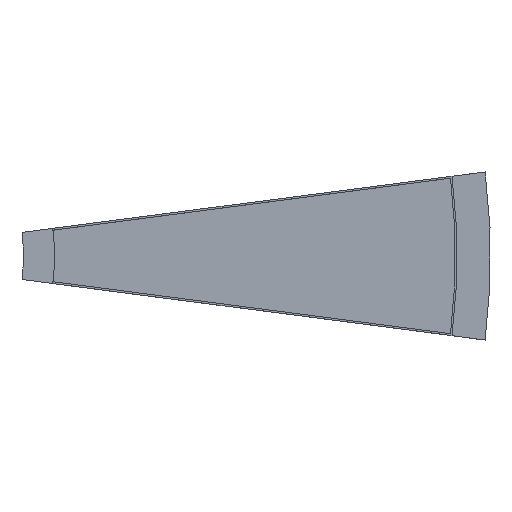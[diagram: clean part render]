
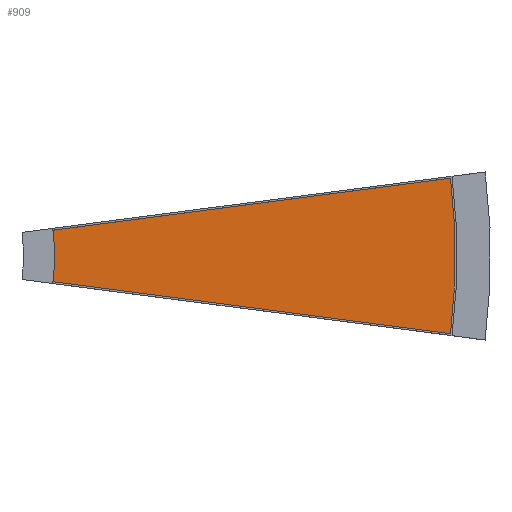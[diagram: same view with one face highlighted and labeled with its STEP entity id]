
A CAD part, top view. The second image highlights one B-rep face of the part: STEP entity #909.
In plain terms, the highlighted planar face has unit normal (0, 0, 1).
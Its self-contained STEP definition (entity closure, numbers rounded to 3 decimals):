
#57 = VERTEX_POINT('',#58);
#58 = CARTESIAN_POINT('',(359.939,-47.038,-50.));
#534 = VERTEX_POINT('',#535);
#535 = CARTESIAN_POINT('',(359.939,47.038,-50.));
#649 = CYLINDRICAL_SURFACE('',#650,363.);
#650 = AXIS2_PLACEMENT_3D('',#651,#652,#653);
#651 = CARTESIAN_POINT('',(0.,0.,-62.));
#652 = DIRECTION('',(-0.,0.,-1.));
#653 = DIRECTION('',(0.992,-0.13,-0.));
#852 = EDGE_CURVE('',#534,#57,#853,.T.);
#853 = SURFACE_CURVE('',#854,(#859,#866),.PCURVE_S1.);
#854 = CIRCLE('',#855,363.);
#855 = AXIS2_PLACEMENT_3D('',#856,#857,#858);
#856 = CARTESIAN_POINT('',(0.,0.,-50.));
#857 = DIRECTION('',(-0.,0.,-1.));
#858 = DIRECTION('',(0.992,-0.13,-0.));
#859 = PCURVE('',#649,#860);
#860 = DEFINITIONAL_REPRESENTATION('',(#861),#865);
#861 = LINE('',#862,#863);
#862 = CARTESIAN_POINT('',(-6.283,-12.));
#863 = VECTOR('',#864,1.);
#864 = DIRECTION('',(1.,-0.));
#865 = ( GEOMETRIC_REPRESENTATION_CONTEXT(2) 
PARAMETRIC_REPRESENTATION_CONTEXT() REPRESENTATION_CONTEXT('2D SPACE',''
  ) );
#866 = PCURVE('',#867,#872);
#867 = PLANE('',#868);
#868 = AXIS2_PLACEMENT_3D('',#869,#870,#871);
#869 = CARTESIAN_POINT('',(733.432,0.,-50.));
#870 = DIRECTION('',(0.,0.,1.));
#871 = DIRECTION('',(1.,0.,-0.));
#872 = DEFINITIONAL_REPRESENTATION('',(#873),#881);
#873 = ( BOUNDED_CURVE() B_SPLINE_CURVE(2,(#874,#875,#876,#877,#878,#879
,#880),.UNSPECIFIED.,.T.,.F.) B_SPLINE_CURVE_WITH_KNOTS((1,2,2,2,2,1),(
    -2.094,0.,2.094,4.189,6.283,
8.378),.UNSPECIFIED.) CURVE() GEOMETRIC_REPRESENTATION_ITEM() 
RATIONAL_B_SPLINE_CURVE((1.,0.5,1.,0.5,1.,0.5,1.)) REPRESENTATION_ITEM(
  '') );
#874 = CARTESIAN_POINT('',(-373.492,-47.038));
#875 = CARTESIAN_POINT('',(-454.965,-670.472));
#876 = CARTESIAN_POINT('',(-954.138,-288.198));
#877 = CARTESIAN_POINT('',(-1453.311,94.076));
#878 = CARTESIAN_POINT('',(-872.665,335.236));
#879 = CARTESIAN_POINT('',(-292.02,576.395));
#880 = CARTESIAN_POINT('',(-373.492,-47.038));
#881 = ( GEOMETRIC_REPRESENTATION_CONTEXT(2) 
PARAMETRIC_REPRESENTATION_CONTEXT() REPRESENTATION_CONTEXT('2D SPACE',''
  ) );
#897 = PLANE('',#898);
#898 = AXIS2_PLACEMENT_3D('',#899,#900,#901);
#899 = CARTESIAN_POINT('',(359.939,-47.038,-62.));
#900 = DIRECTION('',(0.992,-0.13,0.));
#901 = DIRECTION('',(0.,0.,1.));
#909 = ADVANCED_FACE('',(#910),#867,.T.);
#910 = FACE_BOUND('',#911,.T.);
#911 = EDGE_LOOP('',(#912,#940,#964,#965,#986,#1012));
#912 = ORIENTED_EDGE('',*,*,#913,.T.);
#913 = EDGE_CURVE('',#914,#916,#918,.T.);
#914 = VERTEX_POINT('',#915);
#915 = CARTESIAN_POINT('',(1038.557,132.697,-50.));
#916 = VERTEX_POINT('',#917);
#917 = CARTESIAN_POINT('',(360.328,44.064,-50.));
#918 = SURFACE_CURVE('',#919,(#923,#929),.PCURVE_S1.);
#919 = LINE('',#920,#921);
#920 = CARTESIAN_POINT('',(540.917,67.663,-50.));
#921 = VECTOR('',#922,1.);
#922 = DIRECTION('',(-0.992,-0.13,0.));
#923 = PCURVE('',#867,#924);
#924 = DEFINITIONAL_REPRESENTATION('',(#925),#928);
#925 = B_SPLINE_CURVE_WITH_KNOTS('',1,(#926,#927),.UNSPECIFIED.,.F.,.F.,
  (2,2),(-501.876,182.124),.PIECEWISE_BEZIER_KNOTS.);
#926 = CARTESIAN_POINT('',(305.129,132.698));
#927 = CARTESIAN_POINT('',(-373.104,44.064));
#928 = ( GEOMETRIC_REPRESENTATION_CONTEXT(2) 
PARAMETRIC_REPRESENTATION_CONTEXT() REPRESENTATION_CONTEXT('2D SPACE',''
  ) );
#929 = PCURVE('',#930,#935);
#930 = PLANE('',#931);
#931 = AXIS2_PLACEMENT_3D('',#932,#933,#934);
#932 = CARTESIAN_POINT('',(360.328,44.064,-62.));
#933 = DIRECTION('',(-0.13,0.992,0.));
#934 = DIRECTION('',(0.,0.,1.));
#935 = DEFINITIONAL_REPRESENTATION('',(#936),#939);
#936 = B_SPLINE_CURVE_WITH_KNOTS('',1,(#937,#938),.UNSPECIFIED.,.F.,.F.,
  (2,2),(-501.876,182.124),.PIECEWISE_BEZIER_KNOTS.);
#937 = CARTESIAN_POINT('',(12.,684.));
#938 = CARTESIAN_POINT('',(12.,0.));
#939 = ( GEOMETRIC_REPRESENTATION_CONTEXT(2) 
PARAMETRIC_REPRESENTATION_CONTEXT() REPRESENTATION_CONTEXT('2D SPACE',''
  ) );
#940 = ORIENTED_EDGE('',*,*,#941,.T.);
#941 = EDGE_CURVE('',#916,#534,#942,.T.);
#942 = SURFACE_CURVE('',#943,(#947,#953),.PCURVE_S1.);
#943 = LINE('',#944,#945);
#944 = CARTESIAN_POINT('',(366.292,-1.568,-50.));
#945 = VECTOR('',#946,1.);
#946 = DIRECTION('',(-0.13,0.992,0.));
#947 = PCURVE('',#867,#948);
#948 = DEFINITIONAL_REPRESENTATION('',(#949),#952);
#949 = B_SPLINE_CURVE_WITH_KNOTS('',1,(#950,#951),.UNSPECIFIED.,.F.,.F.,
  (2,2),(46.02,49.02),.PIECEWISE_BEZIER_KNOTS.);
#950 = CARTESIAN_POINT('',(-373.104,44.064));
#951 = CARTESIAN_POINT('',(-373.492,47.038));
#952 = ( GEOMETRIC_REPRESENTATION_CONTEXT(2) 
PARAMETRIC_REPRESENTATION_CONTEXT() REPRESENTATION_CONTEXT('2D SPACE',''
  ) );
#953 = PCURVE('',#954,#959);
#954 = PLANE('',#955);
#955 = AXIS2_PLACEMENT_3D('',#956,#957,#958);
#956 = CARTESIAN_POINT('',(360.328,44.064,-62.));
#957 = DIRECTION('',(0.992,0.13,0.));
#958 = DIRECTION('',(0.,0.,1.));
#959 = DEFINITIONAL_REPRESENTATION('',(#960),#963);
#960 = B_SPLINE_CURVE_WITH_KNOTS('',1,(#961,#962),.UNSPECIFIED.,.F.,.F.,
  (2,2),(46.02,49.02),.PIECEWISE_BEZIER_KNOTS.);
#961 = CARTESIAN_POINT('',(12.,0.));
#962 = CARTESIAN_POINT('',(12.,-3.));
#963 = ( GEOMETRIC_REPRESENTATION_CONTEXT(2) 
PARAMETRIC_REPRESENTATION_CONTEXT() REPRESENTATION_CONTEXT('2D SPACE',''
  ) );
#964 = ORIENTED_EDGE('',*,*,#852,.T.);
#965 = ORIENTED_EDGE('',*,*,#966,.T.);
#966 = EDGE_CURVE('',#57,#967,#969,.T.);
#967 = VERTEX_POINT('',#968);
#968 = CARTESIAN_POINT('',(360.328,-44.064,-50.));
#969 = SURFACE_CURVE('',#970,(#974,#980),.PCURVE_S1.);
#970 = LINE('',#971,#972);
#971 = CARTESIAN_POINT('',(366.097,0.081,-50.));
#972 = VECTOR('',#973,1.);
#973 = DIRECTION('',(0.13,0.992,-0.));
#974 = PCURVE('',#867,#975);
#975 = DEFINITIONAL_REPRESENTATION('',(#976),#979);
#976 = B_SPLINE_CURVE_WITH_KNOTS('',1,(#977,#978),.UNSPECIFIED.,.F.,.F.,
  (2,2),(-47.52,-44.52),.PIECEWISE_BEZIER_KNOTS.);
#977 = CARTESIAN_POINT('',(-373.492,-47.038));
#978 = CARTESIAN_POINT('',(-373.104,-44.064));
#979 = ( GEOMETRIC_REPRESENTATION_CONTEXT(2) 
PARAMETRIC_REPRESENTATION_CONTEXT() REPRESENTATION_CONTEXT('2D SPACE',''
  ) );
#980 = PCURVE('',#897,#981);
#981 = DEFINITIONAL_REPRESENTATION('',(#982),#985);
#982 = B_SPLINE_CURVE_WITH_KNOTS('',1,(#983,#984),.UNSPECIFIED.,.F.,.F.,
  (2,2),(-47.52,-44.52),.PIECEWISE_BEZIER_KNOTS.);
#983 = CARTESIAN_POINT('',(12.,0.));
#984 = CARTESIAN_POINT('',(12.,-3.));
#985 = ( GEOMETRIC_REPRESENTATION_CONTEXT(2) 
PARAMETRIC_REPRESENTATION_CONTEXT() REPRESENTATION_CONTEXT('2D SPACE',''
  ) );
#986 = ORIENTED_EDGE('',*,*,#987,.F.);
#987 = EDGE_CURVE('',#988,#967,#990,.T.);
#988 = VERTEX_POINT('',#989);
#989 = CARTESIAN_POINT('',(1038.557,-132.697,-50.));
#990 = SURFACE_CURVE('',#991,(#995,#1001),.PCURVE_S1.);
#991 = LINE('',#992,#993);
#992 = CARTESIAN_POINT('',(540.917,-67.663,-50.));
#993 = VECTOR('',#994,1.);
#994 = DIRECTION('',(-0.992,0.13,0.));
#995 = PCURVE('',#867,#996);
#996 = DEFINITIONAL_REPRESENTATION('',(#997),#1000);
#997 = B_SPLINE_CURVE_WITH_KNOTS('',1,(#998,#999),.UNSPECIFIED.,.F.,.F.,
  (2,2),(-501.876,182.124),.PIECEWISE_BEZIER_KNOTS.);
#998 = CARTESIAN_POINT('',(305.129,-132.698));
#999 = CARTESIAN_POINT('',(-373.104,-44.064));
#1000 = ( GEOMETRIC_REPRESENTATION_CONTEXT(2) 
PARAMETRIC_REPRESENTATION_CONTEXT() REPRESENTATION_CONTEXT('2D SPACE',''
  ) );
#1001 = PCURVE('',#1002,#1007);
#1002 = PLANE('',#1003);
#1003 = AXIS2_PLACEMENT_3D('',#1004,#1005,#1006);
#1004 = CARTESIAN_POINT('',(360.328,-44.064,-62.));
#1005 = DIRECTION('',(0.13,0.992,0.));
#1006 = DIRECTION('',(0.,0.,1.));
#1007 = DEFINITIONAL_REPRESENTATION('',(#1008),#1011);
#1008 = B_SPLINE_CURVE_WITH_KNOTS('',1,(#1009,#1010),.UNSPECIFIED.,.F.,
  .F.,(2,2),(-501.876,182.124),.PIECEWISE_BEZIER_KNOTS.);
#1009 = CARTESIAN_POINT('',(12.,684.));
#1010 = CARTESIAN_POINT('',(12.,0.));
#1011 = ( GEOMETRIC_REPRESENTATION_CONTEXT(2) 
PARAMETRIC_REPRESENTATION_CONTEXT() REPRESENTATION_CONTEXT('2D SPACE',''
  ) );
#1012 = ORIENTED_EDGE('',*,*,#1013,.T.);
#1013 = EDGE_CURVE('',#988,#914,#1014,.T.);
#1014 = SURFACE_CURVE('',#1015,(#1020,#1027),.PCURVE_S1.);
#1015 = CIRCLE('',#1016,1047.);
#1016 = AXIS2_PLACEMENT_3D('',#1017,#1018,#1019);
#1017 = CARTESIAN_POINT('',(0.,0.,-50.));
#1018 = DIRECTION('',(0.,-0.,1.));
#1019 = DIRECTION('',(0.992,-0.13,-0.));
#1020 = PCURVE('',#867,#1021);
#1021 = DEFINITIONAL_REPRESENTATION('',(#1022),#1026);
#1022 = CIRCLE('',#1023,1047.);
#1023 = AXIS2_PLACEMENT_2D('',#1024,#1025);
#1024 = CARTESIAN_POINT('',(-733.432,0.));
#1025 = DIRECTION('',(0.992,-0.13));
#1026 = ( GEOMETRIC_REPRESENTATION_CONTEXT(2) 
PARAMETRIC_REPRESENTATION_CONTEXT() REPRESENTATION_CONTEXT('2D SPACE',''
  ) );
#1027 = PCURVE('',#1028,#1033);
#1028 = CYLINDRICAL_SURFACE('',#1029,1047.);
#1029 = AXIS2_PLACEMENT_3D('',#1030,#1031,#1032);
#1030 = CARTESIAN_POINT('',(0.,0.,-73.));
#1031 = DIRECTION('',(0.,0.,-1.));
#1032 = DIRECTION('',(0.992,0.13,0.));
#1033 = DEFINITIONAL_REPRESENTATION('',(#1034),#1038);
#1034 = LINE('',#1035,#1036);
#1035 = CARTESIAN_POINT('',(0.26,-23.));
#1036 = VECTOR('',#1037,1.);
#1037 = DIRECTION('',(-1.,0.));
#1038 = ( GEOMETRIC_REPRESENTATION_CONTEXT(2) 
PARAMETRIC_REPRESENTATION_CONTEXT() REPRESENTATION_CONTEXT('2D SPACE',''
  ) );
